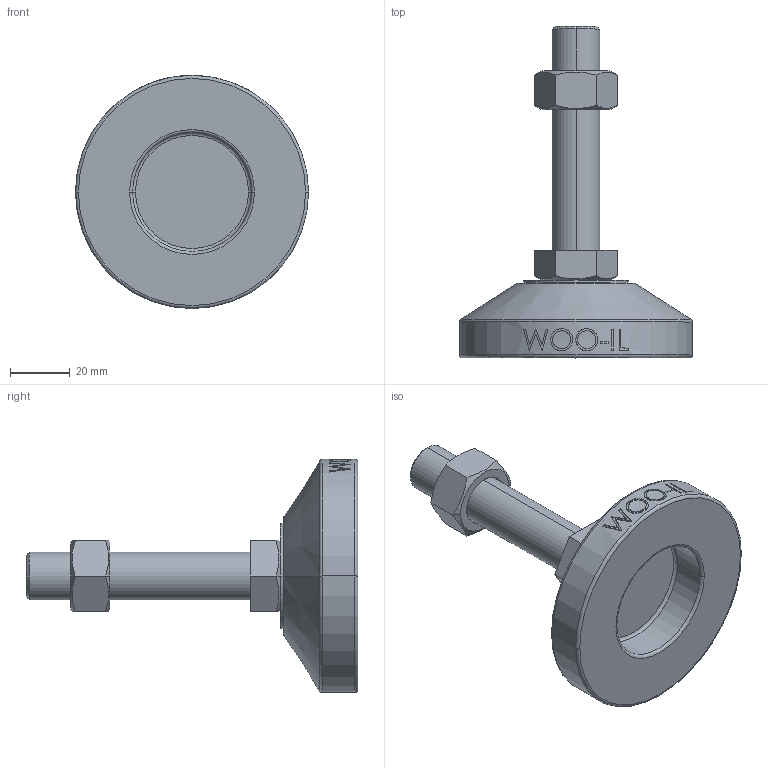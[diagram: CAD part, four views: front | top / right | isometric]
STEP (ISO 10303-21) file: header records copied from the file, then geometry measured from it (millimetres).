
FILE_DESCRIPTION (( 'STEP AP214' ), '1' );
FILE_NAME ('MF78-M16-75.step', '2021-02-03T08:21:16', ( '' ), ( '' ), 'SwSTEP 2.0', 'SolidWorks 2019', '' );
FILE_SCHEMA (( 'AUTOMOTIVE_DESIGN' ));
Length unit declared in the file: millimetre
Products named in the file (2): MF78-M16-75
Bounding box: 78 x 111 x 78 mm (x, y, z)
Volume: 103684.7 mm3; surface area: 22491.4 mm2
Topology: 3 solids, 3 shells, 106 faces, 243 edges, 154 vertices
Faces by surface type: plane 48, cylinder 18, bspline 16, cone 14, torus 10
Entity records: 4520 total; most frequent: CARTESIAN_POINT 2177, ORIENTED_EDGE 486, DIRECTION 439, EDGE_CURVE 243, AXIS2_PLACEMENT_3D 170, VERTEX_POINT 154, EDGE_LOOP 119, FACE_OUTER_BOUND 106
